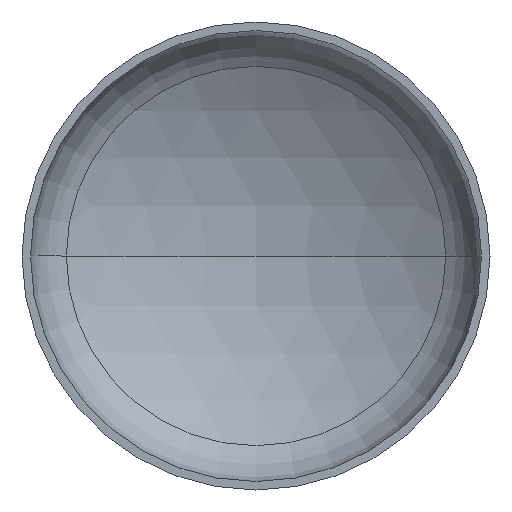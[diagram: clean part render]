
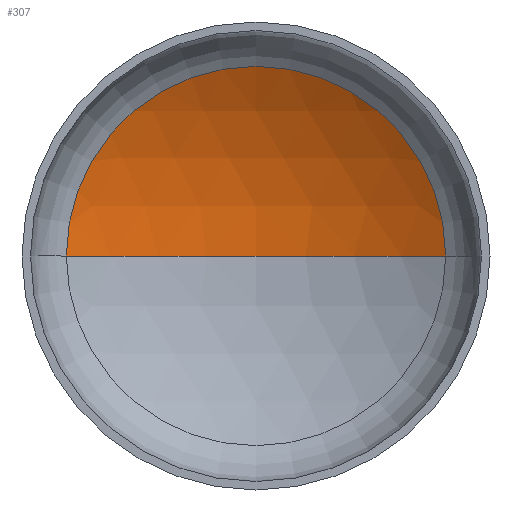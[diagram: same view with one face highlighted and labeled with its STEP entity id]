
A CAD part, front view. The second image highlights one B-rep face of the part: STEP entity #307.
In plain terms, the highlighted spherical face has radius 175 mm.
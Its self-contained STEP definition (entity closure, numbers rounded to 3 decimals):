
#9 = AXIS2_PLACEMENT_3D ( 'NONE', #225, #25, #231 ) ;
#10 = AXIS2_PLACEMENT_3D ( 'NONE', #100, #33, #258 ) ;
#16 = CARTESIAN_POINT ( 'NONE',  ( 0., -101.497, 0. ) ) ;
#22 = AXIS2_PLACEMENT_3D ( 'NONE', #16, #374, #387 ) ;
#25 = DIRECTION ( 'NONE',  ( 0., 0., 1. ) ) ;
#33 = DIRECTION ( 'NONE',  ( 0., 0., -1. ) ) ;
#45 = AXIS2_PLACEMENT_3D ( 'NONE', #158, #152, #155 ) ;
#46 = CIRCLE ( 'NONE', #9, 175. ) ;
#91 = EDGE_CURVE ( 'NONE', #141, #197, #341, .T. ) ;
#100 = CARTESIAN_POINT ( 'NONE',  ( 0., -101.497, 0. ) ) ;
#110 = CARTESIAN_POINT ( 'NONE',  ( 88.803, 49.297, 0. ) ) ;
#114 = ORIENTED_EDGE ( 'NONE', *, *, #344, .F. ) ;
#128 = CARTESIAN_POINT ( 'NONE',  ( -88.803, 49.297, 0. ) ) ;
#141 = VERTEX_POINT ( 'NONE', #110 ) ;
#152 = DIRECTION ( 'NONE',  ( 0., -1., 0. ) ) ;
#155 = DIRECTION ( 'NONE',  ( 1., 0., 0. ) ) ;
#156 = FACE_OUTER_BOUND ( 'NONE', #163, .T. ) ;
#158 = CARTESIAN_POINT ( 'NONE',  ( 0., 49.297, 0. ) ) ;
#163 = EDGE_LOOP ( 'NONE', ( #114, #236, #370 ) ) ;
#186 = VERTEX_POINT ( 'NONE', #256 ) ;
#197 = VERTEX_POINT ( 'NONE', #128 ) ;
#220 = CIRCLE ( 'NONE', #10, 175. ) ;
#225 = CARTESIAN_POINT ( 'NONE',  ( 0., -101.497, 0. ) ) ;
#231 = DIRECTION ( 'NONE',  ( 1., 0., 0. ) ) ;
#236 = ORIENTED_EDGE ( 'NONE', *, *, #343, .T. ) ;
#239 = SPHERICAL_SURFACE ( 'NONE', #22, 175. ) ;
#256 = CARTESIAN_POINT ( 'NONE',  ( 0., 73.503, 0. ) ) ;
#258 = DIRECTION ( 'NONE',  ( -1., 0., 0. ) ) ;
#307 = ADVANCED_FACE ( 'NONE', ( #156 ), #239, .F. ) ;
#341 = CIRCLE ( 'NONE', #45, 88.803 ) ;
#343 = EDGE_CURVE ( 'NONE', #186, #141, #220, .T. ) ;
#344 = EDGE_CURVE ( 'NONE', #186, #197, #46, .T. ) ;
#370 = ORIENTED_EDGE ( 'NONE', *, *, #91, .T. ) ;
#374 = DIRECTION ( 'NONE',  ( 0., 0., -1. ) ) ;
#387 = DIRECTION ( 'NONE',  ( -1., 0., 0. ) ) ;
